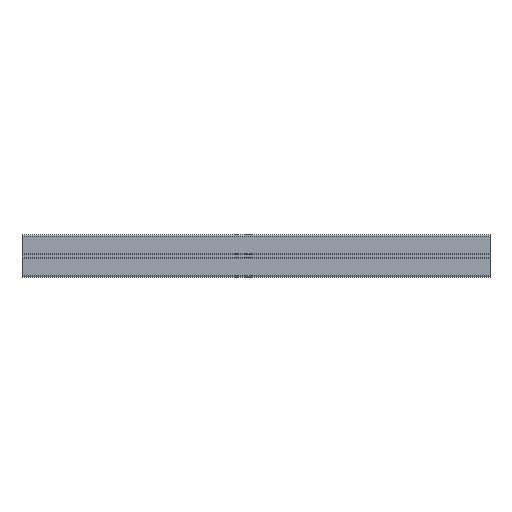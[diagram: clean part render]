
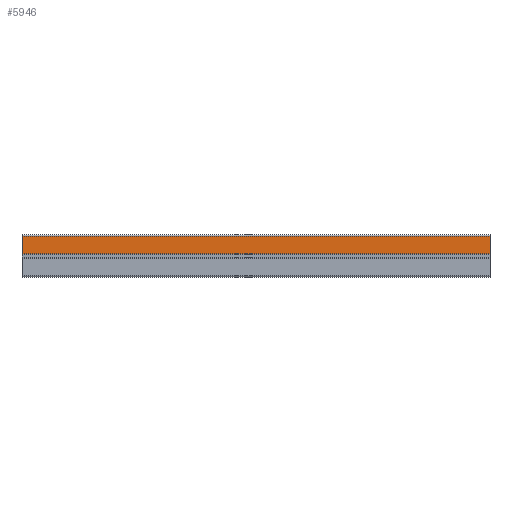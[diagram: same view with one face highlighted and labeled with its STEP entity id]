
A CAD part, top view. The second image highlights one B-rep face of the part: STEP entity #5946.
In plain terms, the highlighted planar face has unit normal (0, 0, 1).
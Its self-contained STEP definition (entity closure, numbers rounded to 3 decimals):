
#196 = DIRECTION ( 'NONE',  ( 0., -1., 0. ) ) ;
#421 = AXIS2_PLACEMENT_3D ( 'NONE', #4015, #448, #3008 ) ;
#448 = DIRECTION ( 'NONE',  ( 0., 0., -1. ) ) ;
#655 = VERTEX_POINT ( 'NONE', #2322 ) ;
#696 = LINE ( 'NONE', #4237, #1172 ) ;
#737 = CARTESIAN_POINT ( 'NONE',  ( 0., 42.5, 9.5 ) ) ;
#893 = DIRECTION ( 'NONE',  ( -1., 0., 0. ) ) ;
#1068 = VERTEX_POINT ( 'NONE', #2509 ) ;
#1172 = VECTOR ( 'NONE', #196, 1000. ) ;
#1335 = ORIENTED_EDGE ( 'NONE', *, *, #4543, .T. ) ;
#1402 = LINE ( 'NONE', #3455, #5149 ) ;
#1828 = LINE ( 'NONE', #3349, #4363 ) ;
#2147 = VERTEX_POINT ( 'NONE', #3054 ) ;
#2322 = CARTESIAN_POINT ( 'NONE',  ( 0., 42.5, 9.5 ) ) ;
#2433 = FACE_OUTER_BOUND ( 'NONE', #6029, .T. ) ;
#2509 = CARTESIAN_POINT ( 'NONE',  ( 1000., 42.5, 9.5 ) ) ;
#2908 = PLANE ( 'NONE',  #421 ) ;
#3008 = DIRECTION ( 'NONE',  ( 0., 1., 0. ) ) ;
#3050 = ORIENTED_EDGE ( 'NONE', *, *, #5619, .T. ) ;
#3054 = CARTESIAN_POINT ( 'NONE',  ( 0., 4.4, 9.5 ) ) ;
#3294 = EDGE_CURVE ( 'NONE', #1068, #3536, #696, .T. ) ;
#3349 = CARTESIAN_POINT ( 'NONE',  ( 1000., 4.4, 9.5 ) ) ;
#3455 = CARTESIAN_POINT ( 'NONE',  ( 1000., 42.5, 9.5 ) ) ;
#3536 = VERTEX_POINT ( 'NONE', #5136 ) ;
#3646 = ORIENTED_EDGE ( 'NONE', *, *, #3294, .F. ) ;
#3808 = EDGE_CURVE ( 'NONE', #3536, #2147, #1828, .T. ) ;
#4015 = CARTESIAN_POINT ( 'NONE',  ( 1000., 42.5, 9.5 ) ) ;
#4237 = CARTESIAN_POINT ( 'NONE',  ( 1000., 42.5, 9.5 ) ) ;
#4363 = VECTOR ( 'NONE', #5403, 1000. ) ;
#4543 = EDGE_CURVE ( 'NONE', #655, #2147, #5928, .T. ) ;
#5136 = CARTESIAN_POINT ( 'NONE',  ( 1000., 4.4, 9.5 ) ) ;
#5149 = VECTOR ( 'NONE', #893, 1000. ) ;
#5403 = DIRECTION ( 'NONE',  ( -1., 0., 0. ) ) ;
#5619 = EDGE_CURVE ( 'NONE', #1068, #655, #1402, .T. ) ;
#5677 = VECTOR ( 'NONE', #5857, 1000. ) ;
#5857 = DIRECTION ( 'NONE',  ( 0., -1., 0. ) ) ;
#5928 = LINE ( 'NONE', #737, #5677 ) ;
#5946 = ADVANCED_FACE ( 'NONE', ( #2433 ), #2908, .F. ) ;
#5998 = ORIENTED_EDGE ( 'NONE', *, *, #3808, .F. ) ;
#6029 = EDGE_LOOP ( 'NONE', ( #1335, #5998, #3646, #3050 ) ) ;
